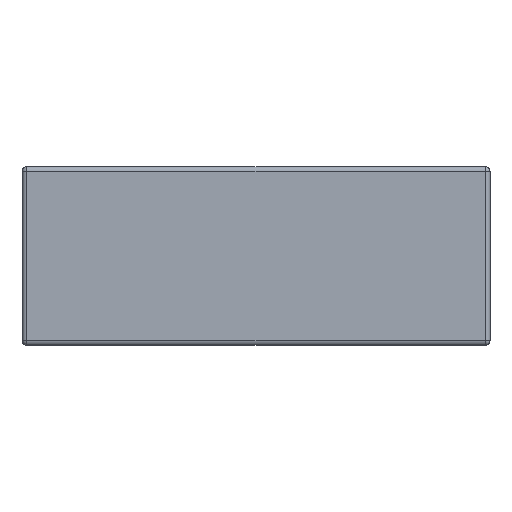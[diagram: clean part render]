
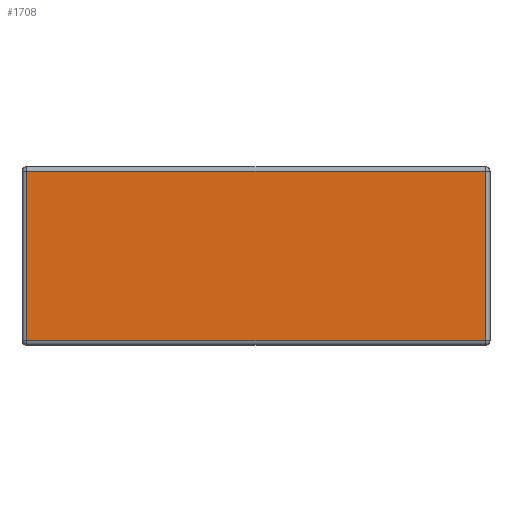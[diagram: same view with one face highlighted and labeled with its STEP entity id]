
A CAD part, front view. The second image highlights one B-rep face of the part: STEP entity #1708.
In plain terms, the highlighted planar face has unit normal (0, -1, 0).
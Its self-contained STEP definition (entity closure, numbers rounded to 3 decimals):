
#263=PLANE('',#1893);
#298=FACE_OUTER_BOUND('',#443,.T.);
#443=EDGE_LOOP('',(#1318,#1319,#1320,#1321));
#594=LINE('',#2711,#691);
#596=LINE('',#2729,#693);
#598=LINE('',#2732,#695);
#600=LINE('',#2735,#697);
#691=VECTOR('',#2170,10.);
#693=VECTOR('',#2194,10.);
#695=VECTOR('',#2198,10.);
#697=VECTOR('',#2202,10.);
#812=VERTEX_POINT('',#2689);
#817=VERTEX_POINT('',#2702);
#820=VERTEX_POINT('',#2715);
#821=VERTEX_POINT('',#2719);
#982=EDGE_CURVE('',#812,#817,#594,.T.);
#991=EDGE_CURVE('',#817,#821,#596,.T.);
#993=EDGE_CURVE('',#821,#820,#598,.T.);
#995=EDGE_CURVE('',#820,#812,#600,.T.);
#1318=ORIENTED_EDGE('',*,*,#982,.F.);
#1319=ORIENTED_EDGE('',*,*,#995,.F.);
#1320=ORIENTED_EDGE('',*,*,#993,.F.);
#1321=ORIENTED_EDGE('',*,*,#991,.F.);
#1708=ADVANCED_FACE('',(#298),#263,.T.);
#1893=AXIS2_PLACEMENT_3D('',#2803,#2276,#2277);
#2170=DIRECTION('',(-1.,0.,0.));
#2194=DIRECTION('',(0.,0.,1.));
#2198=DIRECTION('',(1.,0.,0.));
#2202=DIRECTION('',(0.,0.,-1.));
#2276=DIRECTION('center_axis',(0.,-1.,0.));
#2277=DIRECTION('ref_axis',(0.,0.,-1.));
#2689=CARTESIAN_POINT('',(102.,-7.55,0.95));
#2702=CARTESIAN_POINT('',(53.,-7.55,0.95));
#2711=CARTESIAN_POINT('',(52.5,-7.55,0.95));
#2715=CARTESIAN_POINT('',(102.,-7.55,19.044));
#2719=CARTESIAN_POINT('',(53.,-7.55,19.044));
#2729=CARTESIAN_POINT('',(53.,-7.55,14.772));
#2732=CARTESIAN_POINT('',(52.5,-7.55,19.044));
#2735=CARTESIAN_POINT('',(102.,-7.55,14.772));
#2803=CARTESIAN_POINT('Origin',(52.5,-7.55,19.544));
